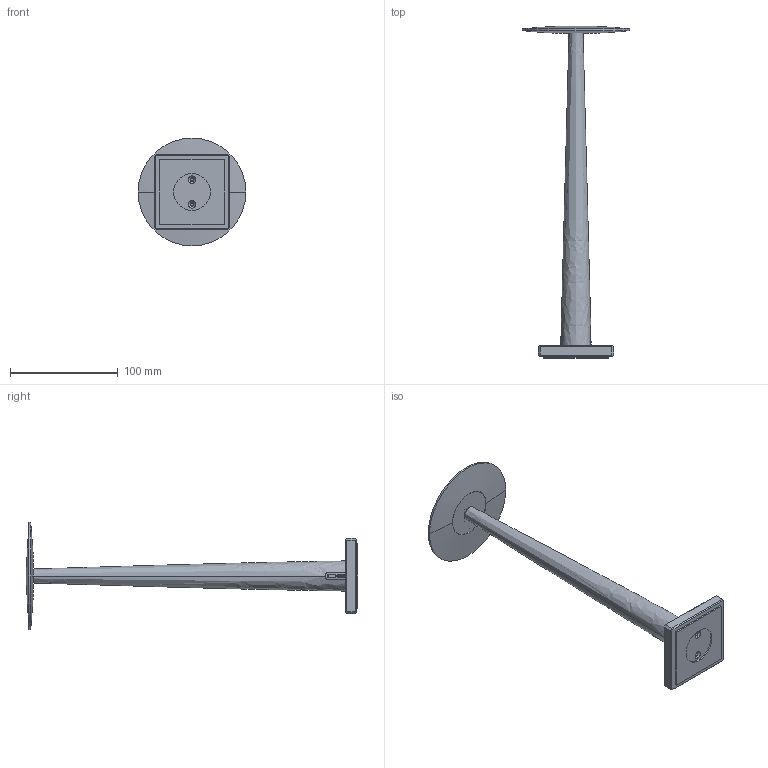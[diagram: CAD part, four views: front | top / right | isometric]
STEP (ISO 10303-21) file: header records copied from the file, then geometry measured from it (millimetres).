
FILE_DESCRIPTION (( 'STEP AP214' ), '1' );
FILE_NAME ('800PORLWW111_PORTOFINO.STEP', '2023-07-04T13:43:21', ( '' ), ( '' ), 'SwSTEP 2.0', 'SolidWorks 2016', '' );
FILE_SCHEMA (( 'AUTOMOTIVE_DESIGN' ));
Length unit declared in the file: millimetre
Products named in the file (9): 010POR000100_BASE MARMO; 051POR700100_TESTA ALLUMINIO; 800PORLWW111_PORTOFINO; 051POR700300_CONO AL; 052POR00400_PUSH; 052POR000300_CASE ELETTRONICA PC-ABS; 010POR000300_FELTRO SOTTOBASE QUADRATO; 052POR00100_DIFFUSORE PC_PER ALLUMINIO; 052POR000200_GUIDALUCE PC
Assembly tree (9 placements, depth 2):
  800PORLWW111_PORTOFINO
    051POR700300_CONO AL
    051POR700100_TESTA ALLUMINIO
    052POR00100_DIFFUSORE PC_PER ALLUMINIO  x2
    052POR00400_PUSH
    010POR000100_BASE MARMO
    052POR000300_CASE ELETTRONICA PC-ABS
    010POR000300_FELTRO SOTTOBASE QUADRATO
    052POR000200_GUIDALUCE PC
Bounding box: 100 x 307.94 x 100 mm (x, y, z)
Volume: 119474.2 mm3; surface area: 84134.2 mm2
Topology: 21 solids, 21 shells, 1119 faces, 2882 edges, 1868 vertices
Faces by surface type: plane 473, bspline 380, cylinder 123, torus 71, cone 68, sphere 4
Entity records: 53644 total; most frequent: CARTESIAN_POINT 30322, ORIENTED_EDGE 5224, DIRECTION 3303, EDGE_CURVE 2612, VERTEX_POINT 1710, VECTOR 1285, LINE 1285, EDGE_LOOP 1112
